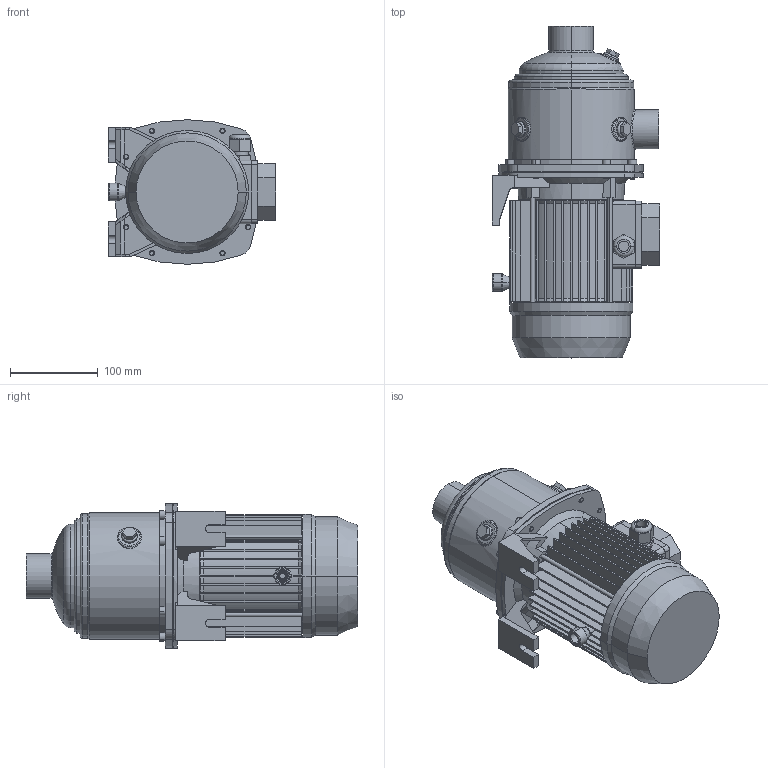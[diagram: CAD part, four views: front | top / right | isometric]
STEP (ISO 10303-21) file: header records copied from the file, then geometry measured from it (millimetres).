
FILE_DESCRIPTION((''),'2;1');
FILE_NAME('MATRIX_10-2T_0_75_IE3_ASM','2018-06-01T',('rosa'),('"Ebara Pumps Europe +39.444.706811"'),'PRO/ENGINEER BY PARAMETRIC TECHNOLOGY CORPORATION, 2012130','PRO/ENGINEER BY PARAMETRIC TECHNOLOGY CORPORATION, 2012130','');
FILE_SCHEMA(('AUTOMOTIVE_DESIGN { 1 0 10303 214 1 1 1 1 }'));
Length unit declared in the file: millimetre
Products named in the file (5): CORPO_POMPA_MATRIX_10-2_3; SUPPORTO_MATRIX_MEC_71; MEC_71X90_IE2; 72228; MATRIX_10-2T_0_75_IE3_ASM
Assembly tree (4 placements, depth 2):
  MATRIX_10-2T_0_75_IE3_ASM
    CORPO_POMPA_MATRIX_10-2_3
    SUPPORTO_MATRIX_MEC_71
    MEC_71X90_IE2
    72228
Bounding box: 191 x 378.8 x 165 mm (x, y, z)
Volume: 3905272.6 mm3; surface area: 472521.6 mm2
Topology: 4 solids, 4 shells, 724 faces, 1741 edges, 1073 vertices
Faces by surface type: plane 375, cylinder 186, cone 110, torus 37, bspline 14, sphere 2
Entity records: 28311 total; most frequent: CARTESIAN_POINT 5460, DIRECTION 3674, ORIENTED_EDGE 3482, EDGE_CURVE 1741, PRESENTATION_STYLE_ASSIGNMENT 1694, STYLED_ITEM 1694, CURVE_STYLE 1691, AXIS2_PLACEMENT_3D 1412
